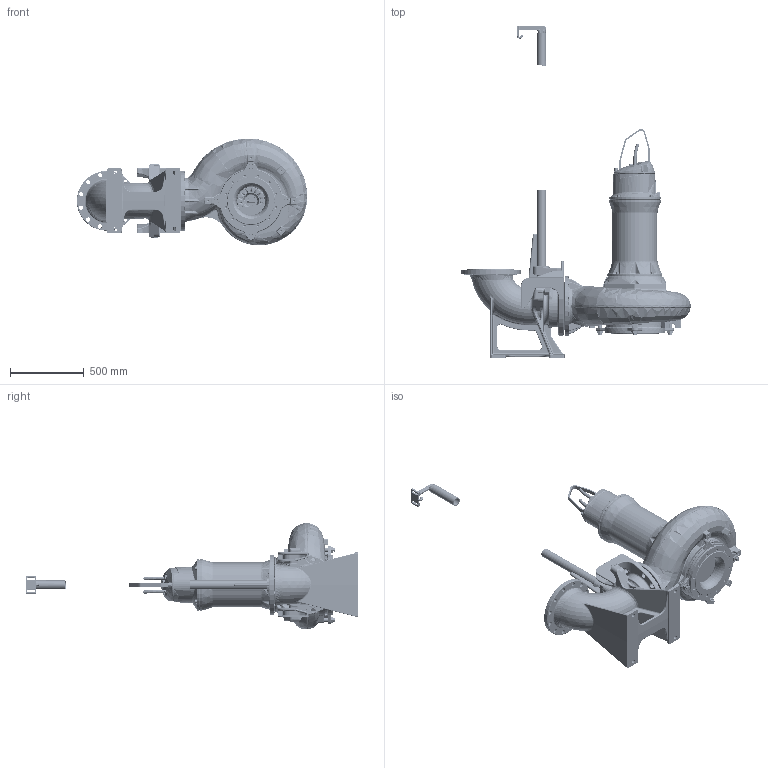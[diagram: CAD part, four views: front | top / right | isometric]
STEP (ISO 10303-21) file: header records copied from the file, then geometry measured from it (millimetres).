
FILE_DESCRIPTION (( 'STEP AP214' ), '1' );
FILE_NAME ('SE3 CFP 255J-CB2 Wet Well.STEP', '2020-09-21T08:50:18', ( '' ), ( '' ), 'SwSTEP 2.0', 'SolidWorks 2017', '' );
FILE_SCHEMA (( 'AUTOMOTIVE_DESIGN' ));
Length unit declared in the file: millimetre
Products named in the file (1): SE3 CFP 255J-CB2 Wet Well
Bounding box: 1561.43 x 2250 x 724.24 mm (x, y, z)
Volume: 75145537.4 mm3; surface area: 9552919.4 mm2
Topology: 68 solids, 68 shells, 10628 faces, 25608 edges, 14673 vertices
Faces by surface type: cylinder 3007, bspline 2988, plane 2252, torus 1229, cone 583, sphere 569
Entity records: 701370 total; most frequent: CARTESIAN_POINT 361877, ORIENTED_EDGE 49452, DIRECTION 42308, EDGE_CURVE 24726, AXIS2_PLACEMENT_3D 17113, VERTEX_POINT 14669, EDGE_LOOP 11321, UNCERTAINTY_MEASURE_WITH_UNIT 10698
